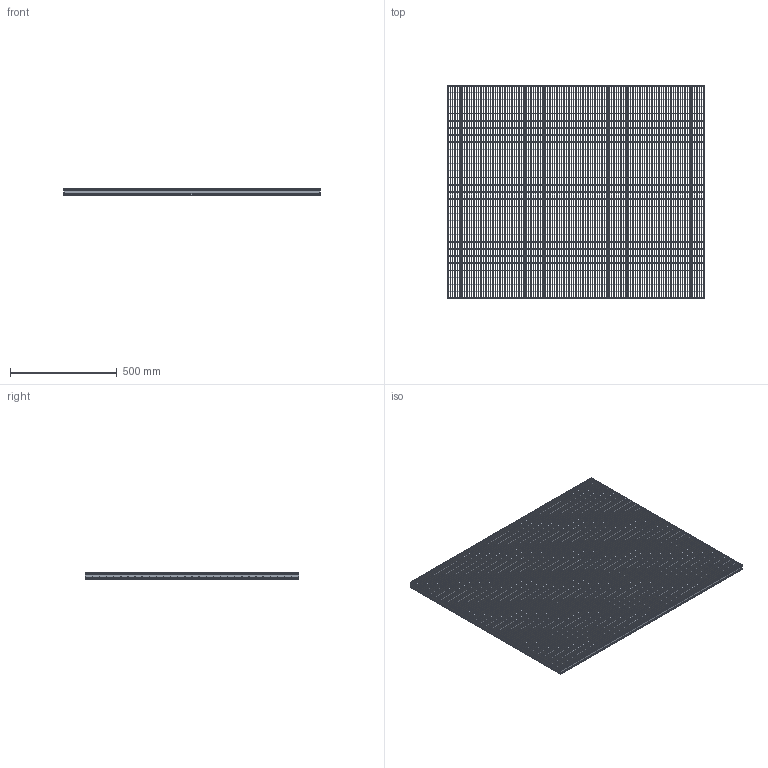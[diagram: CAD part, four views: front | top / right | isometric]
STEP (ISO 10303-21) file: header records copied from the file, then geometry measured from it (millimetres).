
FILE_DESCRIPTION(/* description */ ('STEP AP242','CAx-IF Rec.Pracs.---Representation and Presentation of Product Manufacturing Information (PMI)---4.0---2014-10-13','CAx-IF Rec.Pracs.---3D Tessellated Geometry---0.4---2014-09-14','2;1'),/* implementation_level */ '2;1');
FILE_NAME(/* name */ 'Lichtgitter_Pressure_locked_gratings P 230-33_11-2-1-1-1200-1000_(350_0)',/* time_stamp */ '2026-04-23T10:13:01+02:00',/* author */ ('License CC BY-ND 4.0'),/* organization */ ('CADENAS'),/* preprocessor_version */ 'ST-DEVELOPER v20',/* originating_system */ 'PARTsolutions',/* authorisation */ ' ');
FILE_SCHEMA (('AP242_MANAGED_MODEL_BASED_3D_ENGINEERING_MIM_LF { 1 0 10303 442 1 1 4 }'));
Length unit declared in the file: millimetre
Products named in the file (5): Lichtgitter_Pressure_locked_gratings P 230-33/11-2-1-1-1200-1000_(350
_0); Lichtgitter P 230-11.11/33-2_(Pressroste_350_1_1000_1200)_VERTICAL; Lichtgitter P 230-11.11/33-2_(Pressroste_350_1_1000_1200)_HORIZONTAL_
C; Lichtgitter P 230-11.11/33-2_(Pressroste_350_1_1000_1200)_HORIZONTAL; Lichtgitter P 230-11.11/33-2_(Pressroste_350_1_1000_1200)_VERTICAL_C
Assembly tree (140 placements, depth 2):
  Lichtgitter_Pressure_locked_gratings P 230-33/11-2-1-1-1200-1000_(350
_0)
    Lichtgitter P 230-11.11/33-2_(Pressroste_350_1_1000_1200)_VERTICAL  x2
    Lichtgitter P 230-11.11/33-2_(Pressroste_350_1_1000_1200)_HORIZONTAL_
C  x29
    Lichtgitter P 230-11.11/33-2_(Pressroste_350_1_1000_1200)_HORIZONTAL  x2
    Lichtgitter P 230-11.11/33-2_(Pressroste_350_1_1000_1200)_VERTICAL_C  x107
Bounding box: 1200 x 1000 x 30 mm (x, y, z)
Volume: 4387781.6 mm3; surface area: 5088245.5 mm2
Topology: 140 solids, 140 shells, 13300 faces, 39060 edges, 26040 vertices
Faces by surface type: plane 13268, cylinder 32
Entity records: 16767 total; most frequent: CARTESIAN_POINT 2957, ORIENTED_EDGE 2808, DIRECTION 2670, EDGE_CURVE 1404, LINE 1372, VECTOR 1372, VERTEX_POINT 936, AXIS2_PLACEMENT_3D 649
